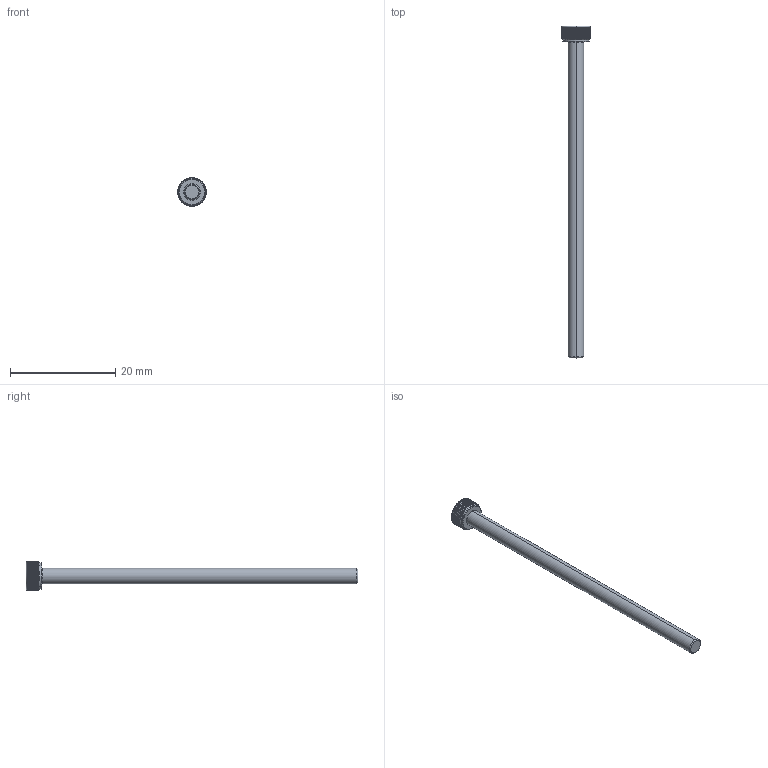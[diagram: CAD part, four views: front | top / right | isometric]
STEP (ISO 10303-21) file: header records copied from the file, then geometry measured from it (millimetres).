
FILE_DESCRIPTION (( 'STEP AP203' ), '1' );
FILE_NAME ('LGDT-304-M3x60.STEP', '2026-08-10T01:01:29', ( '' ), ( '' ), 'SwSTEP 2.0', 'SolidWorks 2020', '' );
FILE_SCHEMA (( 'CONFIG_CONTROL_DESIGN' ));
Length unit declared in the file: millimetre
Products named in the file (1): LGDT-304-M3x60
Bounding box: 5.4 x 63 x 5.4 mm (x, y, z)
Volume: 481.9 mm3; surface area: 669.2 mm2
Topology: 1 solids, 1 shells, 204 faces, 576 edges, 376 vertices
Faces by surface type: cylinder 175, cone 11, plane 10, torus 8
Entity records: 10019 total; most frequent: CARTESIAN_POINT 4860, ORIENTED_EDGE 1152, DIRECTION 988, EDGE_CURVE 576, AXIS2_PLACEMENT_3D 398, VERTEX_POINT 376, EDGE_LOOP 206, FACE_OUTER_BOUND 204
